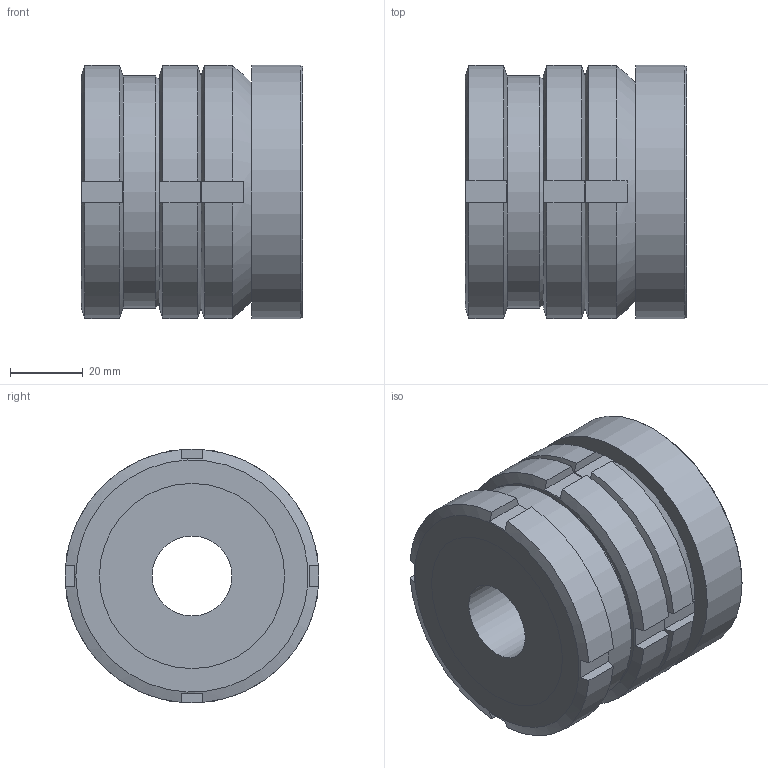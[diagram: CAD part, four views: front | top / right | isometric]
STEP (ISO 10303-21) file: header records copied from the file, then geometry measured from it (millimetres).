
FILE_DESCRIPTION( ( 'STEP AP203' ), '1' );
FILE_NAME( 'C:/Temp/Ganter_Step_05_03_2020/data/3_2/gn350_5/gn350_5_st/Levelling set GN 350.5-70-22-61-ST (0-0).stp', '2020-03-13T05:28:36', ( 'License CC BY-ND 4.0' ), ( 'CADENAS' ), ' ', 'PARTsolutions', ' ' );
FILE_SCHEMA( ( 'CONFIG_CONTROL_DESIGN' ) );
Length unit declared in the file: millimetre
Products named in the file (5): Levelling set GN 350.5-70-22-61-ST (0-0); _Levelling set GN 350.5-70-22-61-ST-G; _Levelling set GN 350.5-70-22-61-ST-K; _Levelling set GN 350.5-70-22-61-ST-P(0); _Levelling set GN 350.5-70-22-61-ST-KM
Assembly tree (4 placements, depth 2):
  Levelling set GN 350.5-70-22-61-ST (0-0)
    _Levelling set GN 350.5-70-22-61-ST-G
    _Levelling set GN 350.5-70-22-61-ST-K
    _Levelling set GN 350.5-70-22-61-ST-P(0)
    _Levelling set GN 350.5-70-22-61-ST-KM
Bounding box: 61 x 70 x 70 mm (x, y, z)
Volume: 195423.3 mm3; surface area: 49189.8 mm2
Topology: 4 solids, 4 shells, 85 faces, 211 edges, 140 vertices
Faces by surface type: plane 50, cylinder 24, cone 9, sphere 2
Full cylindrical faces by diameter (mm): 22 x1, 40 x1, 43.529 x1, 44.5 x1, 48.376 x1, 48.917 x1, 49 x1, 50 x1, 51 x2, 64 x1, 70 x1
Entity records: 2696 total; most frequent: CARTESIAN_POINT 698, DIRECTION 368, ORIENTED_EDGE 356, EDGE_CURVE 178, AXIS2_PLACEMENT_3D 160, VERTEX_POINT 130, EDGE_LOOP 122, FACE_OUTER_BOUND 99
